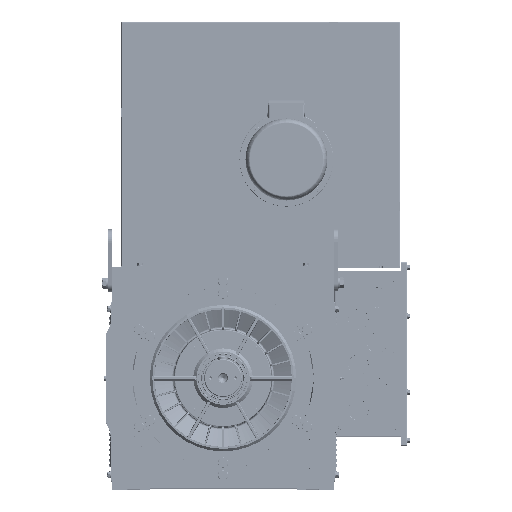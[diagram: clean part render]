
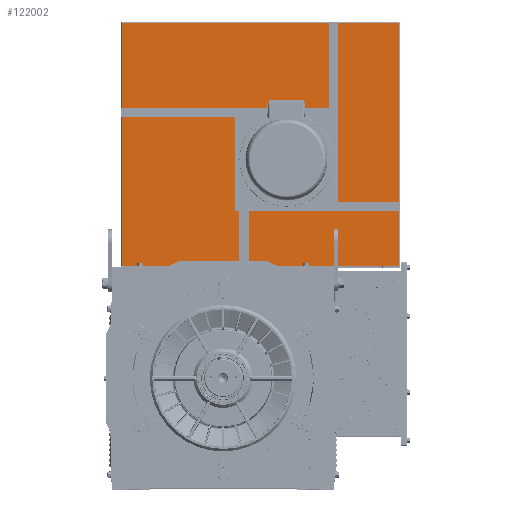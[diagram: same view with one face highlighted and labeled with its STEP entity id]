
A CAD part, top view. The second image highlights one B-rep face of the part: STEP entity #122002.
In plain terms, the highlighted planar face has unit normal (0, 0, 1).
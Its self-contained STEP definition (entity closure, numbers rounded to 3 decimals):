
#229 = AXIS2_PLACEMENT_3D ( 'NONE', #78899, #81232, #191398 ) ;
#654 = AXIS2_PLACEMENT_3D ( 'NONE', #13104, #156615, #85510 ) ;
#1080 = LINE ( 'NONE', #88918, #60925 ) ;
#4954 = DIRECTION ( 'NONE',  ( 0., 1., 0. ) ) ;
#5754 = DIRECTION ( 'NONE',  ( 0., 0., -1. ) ) ;
#6196 = EDGE_CURVE ( 'NONE', #138980, #138980, #67179, .T. ) ;
#6857 = VERTEX_POINT ( 'NONE', #43642 ) ;
#11548 = CIRCLE ( 'NONE', #144055, 6.25 ) ;
#12264 = DIRECTION ( 'NONE',  ( 0., 0., -1. ) ) ;
#12287 = CIRCLE ( 'NONE', #224226, 6.25 ) ;
#13104 = CARTESIAN_POINT ( 'NONE',  ( 445., 785., 114. ) ) ;
#14764 = EDGE_CURVE ( 'NONE', #161439, #206486, #32306, .T. ) ;
#15609 = DIRECTION ( 'NONE',  ( 0., 0., -1. ) ) ;
#17470 = CARTESIAN_POINT ( 'NONE',  ( 198., 345., 114. ) ) ;
#17918 = CARTESIAN_POINT ( 'NONE',  ( 82.5, 212.5, 114. ) ) ;
#20439 = DIRECTION ( 'NONE',  ( 0., -1., 0. ) ) ;
#20923 = VERTEX_POINT ( 'NONE', #215432 ) ;
#22982 = VERTEX_POINT ( 'NONE', #188678 ) ;
#27327 = ORIENTED_EDGE ( 'NONE', *, *, #32682, .T. ) ;
#28898 = CARTESIAN_POINT ( 'NONE',  ( 176.192, 251.308, 114. ) ) ;
#29541 = DIRECTION ( 'NONE',  ( -1., 0., 0. ) ) ;
#31714 = EDGE_LOOP ( 'NONE', ( #36999 ) ) ;
#32306 = LINE ( 'NONE', #226820, #85243 ) ;
#32682 = EDGE_CURVE ( 'NONE', #6857, #6857, #125476, .T. ) ;
#36999 = ORIENTED_EDGE ( 'NONE', *, *, #221831, .F. ) ;
#37363 = DIRECTION ( 'NONE',  ( 0., 0., -1. ) ) ;
#39622 = AXIS2_PLACEMENT_3D ( 'NONE', #17918, #15609, #87996 ) ;
#40264 = CARTESIAN_POINT ( 'NONE',  ( 82.5, 218.75, 114. ) ) ;
#43642 = CARTESIAN_POINT ( 'NONE',  ( 176.192, 444.942, 114. ) ) ;
#43701 = DIRECTION ( 'NONE',  ( 0., 1., 0. ) ) ;
#45430 = EDGE_LOOP ( 'NONE', ( #99951 ) ) ;
#47860 = EDGE_CURVE ( 'NONE', #93248, #93248, #94895, .T. ) ;
#49749 = ORIENTED_EDGE ( 'NONE', *, *, #172449, .T. ) ;
#51895 = EDGE_LOOP ( 'NONE', ( #121206 ) ) ;
#58067 = VERTEX_POINT ( 'NONE', #40264 ) ;
#58409 = CARTESIAN_POINT ( 'NONE',  ( 445., 4., 114. ) ) ;
#60368 = CARTESIAN_POINT ( 'NONE',  ( -11.192, 438.692, 114. ) ) ;
#60925 = VECTOR ( 'NONE', #145728, 1000. ) ;
#61322 = DIRECTION ( 'NONE',  ( 0., 0., 1. ) ) ;
#65673 = ORIENTED_EDGE ( 'NONE', *, *, #203350, .T. ) ;
#67179 = CIRCLE ( 'NONE', #139079, 6.25 ) ;
#68917 = AXIS2_PLACEMENT_3D ( 'NONE', #178849, #197778, #145595 ) ;
#69404 = EDGE_LOOP ( 'NONE', ( #49749 ) ) ;
#70211 = DIRECTION ( 'NONE',  ( 0., 0., -1. ) ) ;
#76771 = VERTEX_POINT ( 'NONE', #17470 ) ;
#78899 = CARTESIAN_POINT ( 'NONE',  ( -50., 345., 114. ) ) ;
#81232 = DIRECTION ( 'NONE',  ( 0., 0., -1. ) ) ;
#83194 = FACE_BOUND ( 'NONE', #95641, .T. ) ;
#83399 = DIRECTION ( 'NONE',  ( 0., 1., 0. ) ) ;
#85232 = CARTESIAN_POINT ( 'NONE',  ( 176.192, 257.558, 114. ) ) ;
#85243 = VECTOR ( 'NONE', #83399, 1000. ) ;
#85510 = DIRECTION ( 'NONE',  ( 0., 1., 0. ) ) ;
#87996 = DIRECTION ( 'NONE',  ( 0., 1., 0. ) ) ;
#88918 = CARTESIAN_POINT ( 'NONE',  ( 445., 783., 114. ) ) ;
#88933 = EDGE_LOOP ( 'NONE', ( #197931 ) ) ;
#93029 = EDGE_CURVE ( 'NONE', #217702, #217702, #204664, .T. ) ;
#93248 = VERTEX_POINT ( 'NONE', #187979 ) ;
#94895 = CIRCLE ( 'NONE', #229, 6.25 ) ;
#95641 = EDGE_LOOP ( 'NONE', ( #220061 ) ) ;
#98840 = AXIS2_PLACEMENT_3D ( 'NONE', #224269, #168571, #4954 ) ;
#99431 = EDGE_LOOP ( 'NONE', ( #65673 ) ) ;
#99951 = ORIENTED_EDGE ( 'NONE', *, *, #93029, .T. ) ;
#110559 = CARTESIAN_POINT ( 'NONE',  ( -443., 785., 114. ) ) ;
#116030 = CARTESIAN_POINT ( 'NONE',  ( -443., 4., 114. ) ) ;
#119820 = FACE_BOUND ( 'NONE', #213547, .T. ) ;
#120438 = VECTOR ( 'NONE', #29541, 1000. ) ;
#120998 = FACE_BOUND ( 'NONE', #156848, .T. ) ;
#121206 = ORIENTED_EDGE ( 'NONE', *, *, #181698, .T. ) ;
#122002 = ADVANCED_FACE ( 'NONE', ( #191003, #119820, #83194, #120998, #228953, #174395, #175572, #194497, #155447, #122164 ), #192171, .F. ) ;
#122164 = FACE_OUTER_BOUND ( 'NONE', #166115, .T. ) ;
#122260 = VERTEX_POINT ( 'NONE', #116030 ) ;
#125476 = CIRCLE ( 'NONE', #68917, 6.25 ) ;
#126572 = EDGE_CURVE ( 'NONE', #22982, #122260, #200645, .T. ) ;
#127596 = CARTESIAN_POINT ( 'NONE',  ( 82.5, 483.75, 114. ) ) ;
#129719 = DIRECTION ( 'NONE',  ( 0., 1., 0. ) ) ;
#138980 = VERTEX_POINT ( 'NONE', #232604 ) ;
#138994 = ORIENTED_EDGE ( 'NONE', *, *, #126572, .T. ) ;
#139079 = AXIS2_PLACEMENT_3D ( 'NONE', #194645, #70211, #157914 ) ;
#140758 = ORIENTED_EDGE ( 'NONE', *, *, #6196, .T. ) ;
#143599 = ORIENTED_EDGE ( 'NONE', *, *, #148184, .T. ) ;
#144055 = AXIS2_PLACEMENT_3D ( 'NONE', #28898, #12264, #156933 ) ;
#145595 = DIRECTION ( 'NONE',  ( 0., 1., 0. ) ) ;
#145692 = VECTOR ( 'NONE', #20439, 1000. ) ;
#145728 = DIRECTION ( 'NONE',  ( -1., 0., 0. ) ) ;
#145756 = EDGE_CURVE ( 'NONE', #161439, #122260, #150839, .T. ) ;
#148184 = EDGE_CURVE ( 'NONE', #206486, #22982, #1080, .T. ) ;
#150839 = LINE ( 'NONE', #58409, #120438 ) ;
#150895 = CIRCLE ( 'NONE', #192523, 115.5 ) ;
#155447 = FACE_BOUND ( 'NONE', #31714, .T. ) ;
#156615 = DIRECTION ( 'NONE',  ( 0., 0., -1. ) ) ;
#156848 = EDGE_LOOP ( 'NONE', ( #140758 ) ) ;
#156933 = DIRECTION ( 'NONE',  ( 0., 1., 0. ) ) ;
#157914 = DIRECTION ( 'NONE',  ( 0., 1., 0. ) ) ;
#158923 = CIRCLE ( 'NONE', #219457, 6.25 ) ;
#161439 = VERTEX_POINT ( 'NONE', #226247 ) ;
#166115 = EDGE_LOOP ( 'NONE', ( #143599, #138994, #224370, #198196 ) ) ;
#168004 = CARTESIAN_POINT ( 'NONE',  ( 82.5, 345., 114. ) ) ;
#168571 = DIRECTION ( 'NONE',  ( 0., 0., -1. ) ) ;
#172449 = EDGE_CURVE ( 'NONE', #20923, #20923, #158923, .T. ) ;
#174395 = FACE_BOUND ( 'NONE', #51895, .T. ) ;
#175572 = FACE_BOUND ( 'NONE', #99431, .T. ) ;
#177290 = CARTESIAN_POINT ( 'NONE',  ( 215., 351.25, 114. ) ) ;
#178849 = CARTESIAN_POINT ( 'NONE',  ( 176.192, 438.692, 114. ) ) ;
#181698 = EDGE_CURVE ( 'NONE', #192750, #192750, #12287, .T. ) ;
#183126 = CARTESIAN_POINT ( 'NONE',  ( 215., 345., 114. ) ) ;
#187979 = CARTESIAN_POINT ( 'NONE',  ( -50., 351.25, 114. ) ) ;
#188678 = CARTESIAN_POINT ( 'NONE',  ( -443., 783., 114. ) ) ;
#189740 = CARTESIAN_POINT ( 'NONE',  ( 443., 783., 114. ) ) ;
#191003 = FACE_BOUND ( 'NONE', #69404, .T. ) ;
#191398 = DIRECTION ( 'NONE',  ( 0., 1., 0. ) ) ;
#192171 = PLANE ( 'NONE',  #654 ) ;
#192523 = AXIS2_PLACEMENT_3D ( 'NONE', #168004, #61322, #207019 ) ;
#192750 = VERTEX_POINT ( 'NONE', #177290 ) ;
#194497 = FACE_BOUND ( 'NONE', #88933, .T. ) ;
#194645 = CARTESIAN_POINT ( 'NONE',  ( -11.192, 251.308, 114. ) ) ;
#197778 = DIRECTION ( 'NONE',  ( 0., 0., -1. ) ) ;
#197931 = ORIENTED_EDGE ( 'NONE', *, *, #47860, .T. ) ;
#198196 = ORIENTED_EDGE ( 'NONE', *, *, #14764, .T. ) ;
#200645 = LINE ( 'NONE', #110559, #145692 ) ;
#203350 = EDGE_CURVE ( 'NONE', #58067, #58067, #213702, .T. ) ;
#204664 = CIRCLE ( 'NONE', #98840, 6.25 ) ;
#206486 = VERTEX_POINT ( 'NONE', #189740 ) ;
#207019 = DIRECTION ( 'NONE',  ( 1., 0., 0. ) ) ;
#213134 = VERTEX_POINT ( 'NONE', #85232 ) ;
#213547 = EDGE_LOOP ( 'NONE', ( #27327 ) ) ;
#213702 = CIRCLE ( 'NONE', #39622, 6.25 ) ;
#215432 = CARTESIAN_POINT ( 'NONE',  ( -11.192, 444.942, 114. ) ) ;
#217702 = VERTEX_POINT ( 'NONE', #127596 ) ;
#218069 = EDGE_CURVE ( 'NONE', #213134, #213134, #11548, .T. ) ;
#219457 = AXIS2_PLACEMENT_3D ( 'NONE', #60368, #5754, #43701 ) ;
#220061 = ORIENTED_EDGE ( 'NONE', *, *, #218069, .T. ) ;
#221831 = EDGE_CURVE ( 'NONE', #76771, #76771, #150895, .T. ) ;
#224226 = AXIS2_PLACEMENT_3D ( 'NONE', #183126, #37363, #129719 ) ;
#224269 = CARTESIAN_POINT ( 'NONE',  ( 82.5, 477.5, 114. ) ) ;
#224370 = ORIENTED_EDGE ( 'NONE', *, *, #145756, .F. ) ;
#226247 = CARTESIAN_POINT ( 'NONE',  ( 443., 4., 114. ) ) ;
#226820 = CARTESIAN_POINT ( 'NONE',  ( 443., 785., 114. ) ) ;
#228953 = FACE_BOUND ( 'NONE', #45430, .T. ) ;
#232604 = CARTESIAN_POINT ( 'NONE',  ( -11.192, 257.558, 114. ) ) ;
